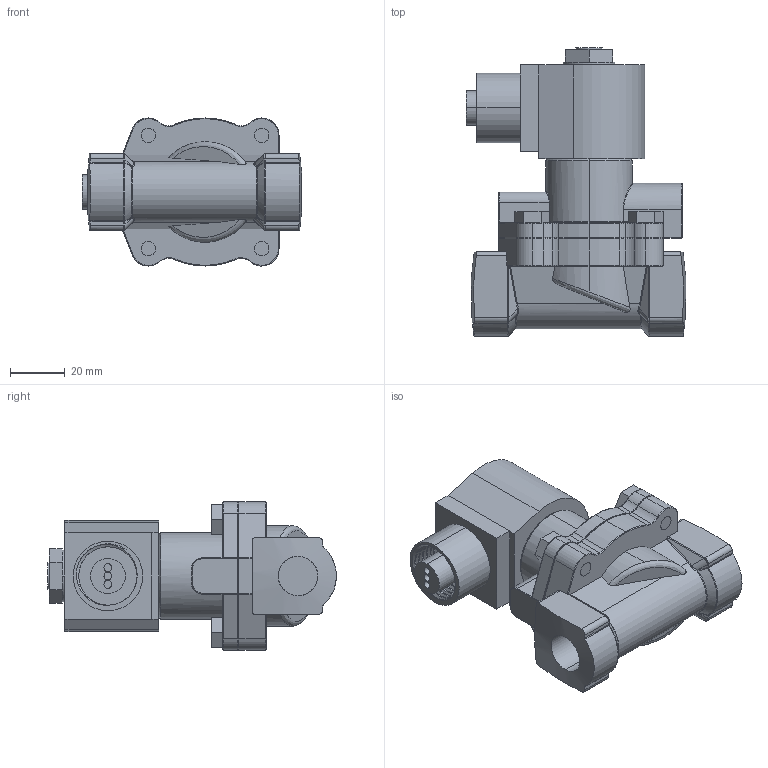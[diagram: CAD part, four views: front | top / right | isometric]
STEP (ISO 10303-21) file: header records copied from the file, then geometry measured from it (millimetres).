
FILE_DESCRIPTION (( 'STEP AP203' ), '1' );
FILE_NAME ('S211G_K4C.STEP', '2022-08-31T15:18:10', ( '' ), ( '' ), 'SwSTEP 2.0', 'SolidWorks 2022', '' );
FILE_SCHEMA (( 'CONFIG_CONTROL_DESIGN' ));
Length unit declared in the file: inch
Products named in the file (1): S211G_K4C
Bounding box: 80.3 x 105.56 x 54.13 mm (x, y, z)
Volume: 181752.9 mm3; surface area: 36134.6 mm2
Topology: 3 solids, 3 shells, 439 faces, 1026 edges, 609 vertices
Faces by surface type: cylinder 160, plane 138, bspline 137, cone 4
Entity records: 17585 total; most frequent: CARTESIAN_POINT 8416, ORIENTED_EDGE 2048, DIRECTION 1753, EDGE_CURVE 1024, AXIS2_PLACEMENT_3D 672, VERTEX_POINT 609, EDGE_LOOP 457, ADVANCED_FACE 439
